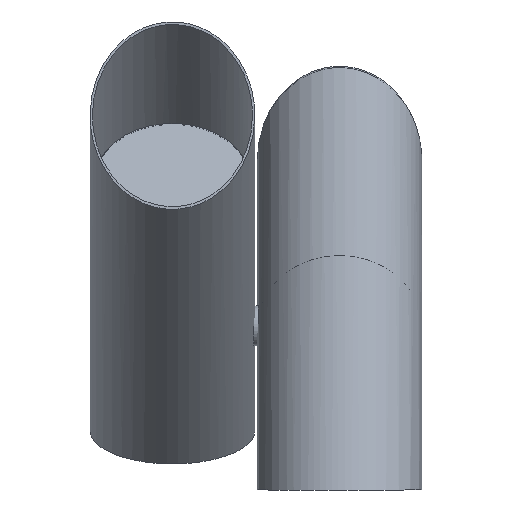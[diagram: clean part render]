
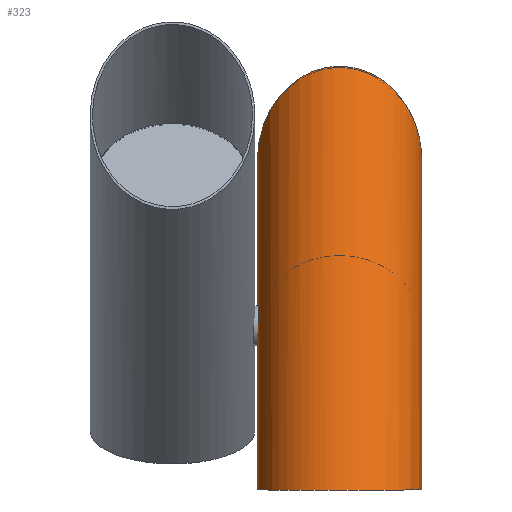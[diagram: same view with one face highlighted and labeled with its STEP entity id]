
A CAD part, front view. The second image highlights one B-rep face of the part: STEP entity #323.
In plain terms, the highlighted cylindrical face has radius 35 mm (diameter 70 mm), a partial arc.
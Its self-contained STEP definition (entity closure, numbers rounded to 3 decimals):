
#16 = VERTEX_POINT ( 'NONE', #243 ) ;
#21 = CARTESIAN_POINT ( 'NONE',  ( -35., 241.769, 139.585 ) ) ;
#40 = EDGE_CURVE ( 'NONE', #16, #483, #514, .T. ) ;
#42 = ORIENTED_EDGE ( 'NONE', *, *, #718, .F. ) ;
#45 = EDGE_CURVE ( 'NONE', #384, #16, #112, .T. ) ;
#68 = CARTESIAN_POINT ( 'NONE',  ( -35., -140., 0. ) ) ;
#112 = LINE ( 'NONE', #803, #939 ) ;
#134 = EDGE_CURVE ( 'NONE', #509, #483, #311, .T. ) ;
#190 = CARTESIAN_POINT ( 'NONE',  ( 35., 241.769, 220.415 ) ) ;
#199 = DIRECTION ( 'NONE',  ( 1., 0., 0. ) ) ;
#231 = CYLINDRICAL_SURFACE ( 'NONE', #517, 35. ) ;
#236 = CARTESIAN_POINT ( 'NONE',  ( 35., 0., 0. ) ) ;
#243 = CARTESIAN_POINT ( 'NONE',  ( 35., 0., 0. ) ) ;
#311 = LINE ( 'NONE', #357, #496 ) ;
#319 = CARTESIAN_POINT ( 'NONE',  ( 35., -140., 0. ) ) ;
#323 = ADVANCED_FACE ( 'NONE', ( #788 ), #231, .T. ) ;
#344 = CARTESIAN_POINT ( 'NONE',  ( -35., 241.769, 220.415 ) ) ;
#357 = CARTESIAN_POINT ( 'NONE',  ( -35., 259.269, 149.689 ) ) ;
#384 = VERTEX_POINT ( 'NONE', #671 ) ;
#424 = DIRECTION ( 'NONE',  ( 0., -0.866, -0.5 ) ) ;
#482 = ORIENTED_EDGE ( 'NONE', *, *, #40, .F. ) ;
#483 = VERTEX_POINT ( 'NONE', #687 ) ;
#496 = VECTOR ( 'NONE', #424, 1000. ) ;
#509 = VERTEX_POINT ( 'NONE', #683 ) ;
#514 =( BOUNDED_CURVE ( )  B_SPLINE_CURVE ( 3, ( #236, #319, #68, #944 ),
 .UNSPECIFIED., .F., .F. ) 
 B_SPLINE_CURVE_WITH_KNOTS ( ( 4, 4 ),
 ( 4.712, 7.854 ),
 .UNSPECIFIED. ) 
 CURVE ( )  GEOMETRIC_REPRESENTATION_ITEM ( )  RATIONAL_B_SPLINE_CURVE ( ( 1., 0.333, 0.333, 1. ) ) 
 REPRESENTATION_ITEM ( '' )  );
#517 = AXIS2_PLACEMENT_3D ( 'NONE', #658, #920, #199 ) ;
#658 = CARTESIAN_POINT ( 'NONE',  ( 0., 259.269, 149.689 ) ) ;
#671 = CARTESIAN_POINT ( 'NONE',  ( 35., 241.769, 139.585 ) ) ;
#683 = CARTESIAN_POINT ( 'NONE',  ( -35., 241.769, 139.585 ) ) ;
#687 = CARTESIAN_POINT ( 'NONE',  ( -35., 0., 0. ) ) ;
#700 = CARTESIAN_POINT ( 'NONE',  ( 35., 241.769, 139.585 ) ) ;
#718 = EDGE_CURVE ( 'NONE', #509, #384, #791, .T. ) ;
#760 = DIRECTION ( 'NONE',  ( 0., -0.866, -0.5 ) ) ;
#788 = FACE_OUTER_BOUND ( 'NONE', #861, .T. ) ;
#789 = ORIENTED_EDGE ( 'NONE', *, *, #134, .T. ) ;
#791 =( BOUNDED_CURVE ( )  B_SPLINE_CURVE ( 3, ( #21, #344, #190, #700 ),
 .UNSPECIFIED., .F., .F. ) 
 B_SPLINE_CURVE_WITH_KNOTS ( ( 4, 4 ),
 ( 1.571, 4.712 ),
 .UNSPECIFIED. ) 
 CURVE ( )  GEOMETRIC_REPRESENTATION_ITEM ( )  RATIONAL_B_SPLINE_CURVE ( ( 1., 0.333, 0.333, 1. ) ) 
 REPRESENTATION_ITEM ( '' )  );
#803 = CARTESIAN_POINT ( 'NONE',  ( 35., 259.269, 149.689 ) ) ;
#861 = EDGE_LOOP ( 'NONE', ( #42, #789, #482, #931 ) ) ;
#920 = DIRECTION ( 'NONE',  ( 0., -0.866, -0.5 ) ) ;
#931 = ORIENTED_EDGE ( 'NONE', *, *, #45, .F. ) ;
#939 = VECTOR ( 'NONE', #760, 1000. ) ;
#944 = CARTESIAN_POINT ( 'NONE',  ( -35., 0., 0. ) ) ;
